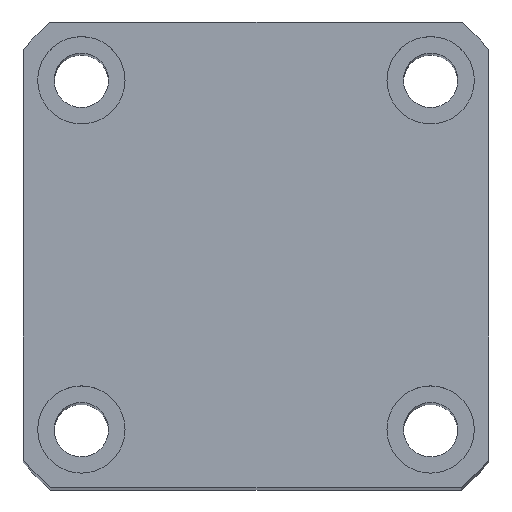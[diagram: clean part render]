
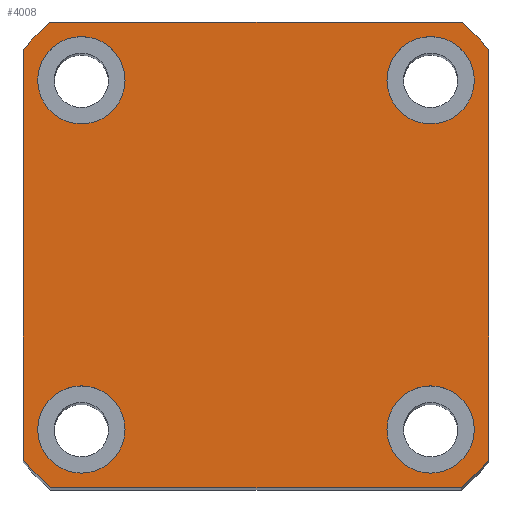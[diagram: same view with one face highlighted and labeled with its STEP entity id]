
A CAD part, top view. The second image highlights one B-rep face of the part: STEP entity #4008.
In plain terms, the highlighted planar face has unit normal (0, 0, 1) as drawn and (1, 0, 0) by its records, which use the part's own axes.
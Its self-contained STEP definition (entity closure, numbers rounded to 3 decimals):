
#106 = CARTESIAN_POINT ( 'NONE',  ( 135., -18., 13.5 ) ) ;
#119 = DIRECTION ( 'NONE',  ( 1., 0., 0. ) ) ;
#218 = DIRECTION ( 'NONE',  ( 0., 0., -1. ) ) ;
#349 = VERTEX_POINT ( 'NONE', #4799 ) ;
#373 = DIRECTION ( 'NONE',  ( 0., 0., -1. ) ) ;
#385 = FACE_OUTER_BOUND ( 'NONE', #4610, .T. ) ;
#456 = EDGE_CURVE ( 'NONE', #5456, #5021, #3581, .T. ) ;
#568 = CARTESIAN_POINT ( 'NONE',  ( 135., 21.166, 24. ) ) ;
#635 = FACE_BOUND ( 'NONE', #8211, .T. ) ;
#684 = VERTEX_POINT ( 'NONE', #4322 ) ;
#689 = DIRECTION ( 'NONE',  ( 0., 0., -1. ) ) ;
#705 = ORIENTED_EDGE ( 'NONE', *, *, #456, .F. ) ;
#852 = ORIENTED_EDGE ( 'NONE', *, *, #4345, .T. ) ;
#887 = CARTESIAN_POINT ( 'NONE',  ( 135., 0., 0. ) ) ;
#899 = CARTESIAN_POINT ( 'NONE',  ( 135., -24., 21.166 ) ) ;
#920 = EDGE_LOOP ( 'NONE', ( #2832, #3960 ) ) ;
#987 = CARTESIAN_POINT ( 'NONE',  ( 135., 24., 24. ) ) ;
#1135 = ORIENTED_EDGE ( 'NONE', *, *, #10240, .T. ) ;
#1282 = DIRECTION ( 'NONE',  ( 1., 0., 0. ) ) ;
#1289 = AXIS2_PLACEMENT_3D ( 'NONE', #887, #6724, #1725 ) ;
#1295 = AXIS2_PLACEMENT_3D ( 'NONE', #8326, #3315, #9135 ) ;
#1313 = CARTESIAN_POINT ( 'NONE',  ( 135., 18., -13.5 ) ) ;
#1355 = DIRECTION ( 'NONE',  ( 1., 0., 0. ) ) ;
#1544 = CARTESIAN_POINT ( 'NONE',  ( 135., -18., -18. ) ) ;
#1614 = CIRCLE ( 'NONE', #7453, 4.5 ) ;
#1634 = CARTESIAN_POINT ( 'NONE',  ( 135., -21.166, -24. ) ) ;
#1678 = EDGE_CURVE ( 'NONE', #3314, #3389, #6173, .T. ) ;
#1695 = CARTESIAN_POINT ( 'NONE',  ( 135., 0., 0. ) ) ;
#1725 = DIRECTION ( 'NONE',  ( 0., 0., -1. ) ) ;
#1746 = EDGE_CURVE ( 'NONE', #10624, #7186, #5623, .T. ) ;
#1821 = DIRECTION ( 'NONE',  ( 0., -1., 0. ) ) ;
#1950 = DIRECTION ( 'NONE',  ( 0., 0., 1. ) ) ;
#2161 = EDGE_CURVE ( 'NONE', #7186, #10624, #7739, .T. ) ;
#2256 = DIRECTION ( 'NONE',  ( 0., 0., -1. ) ) ;
#2375 = VERTEX_POINT ( 'NONE', #9405 ) ;
#2388 = DIRECTION ( 'NONE',  ( 0., 0., -1. ) ) ;
#2398 = VERTEX_POINT ( 'NONE', #8665 ) ;
#2537 = DIRECTION ( 'NONE',  ( 0., 0., -1. ) ) ;
#2551 = ORIENTED_EDGE ( 'NONE', *, *, #6349, .T. ) ;
#2620 = FACE_BOUND ( 'NONE', #5037, .T. ) ;
#2671 = CARTESIAN_POINT ( 'NONE',  ( 135., 18., 13.5 ) ) ;
#2798 = EDGE_CURVE ( 'NONE', #5021, #5456, #7316, .T. ) ;
#2832 = ORIENTED_EDGE ( 'NONE', *, *, #7384, .F. ) ;
#2894 = VERTEX_POINT ( 'NONE', #5291 ) ;
#3037 = CARTESIAN_POINT ( 'NONE',  ( 135., -18., -18. ) ) ;
#3161 = DIRECTION ( 'NONE',  ( 1., 0., 0. ) ) ;
#3191 = EDGE_CURVE ( 'NONE', #3793, #6776, #10653, .T. ) ;
#3231 = AXIS2_PLACEMENT_3D ( 'NONE', #10335, #5376, #373 ) ;
#3314 = VERTEX_POINT ( 'NONE', #8380 ) ;
#3315 = DIRECTION ( 'NONE',  ( 1., 0., 0. ) ) ;
#3389 = VERTEX_POINT ( 'NONE', #899 ) ;
#3573 = VECTOR ( 'NONE', #2256, 1000. ) ;
#3578 = AXIS2_PLACEMENT_3D ( 'NONE', #1544, #7386, #2388 ) ;
#3581 = CIRCLE ( 'NONE', #5561, 4.5 ) ;
#3793 = VERTEX_POINT ( 'NONE', #10262 ) ;
#3801 = AXIS2_PLACEMENT_3D ( 'NONE', #3037, #8863, #3869 ) ;
#3854 = ORIENTED_EDGE ( 'NONE', *, *, #1746, .F. ) ;
#3869 = DIRECTION ( 'NONE',  ( 0., 0., -1. ) ) ;
#3960 = ORIENTED_EDGE ( 'NONE', *, *, #4686, .F. ) ;
#3977 = DIRECTION ( 'NONE',  ( 0., 1., 0. ) ) ;
#4008 = ADVANCED_FACE ( 'NONE', ( #5098, #2620, #635, #7306, #385 ), #6476, .T. ) ;
#4205 = DIRECTION ( 'NONE',  ( 0., 0., -1. ) ) ;
#4322 = CARTESIAN_POINT ( 'NONE',  ( 135., -24., -21.166 ) ) ;
#4345 = EDGE_CURVE ( 'NONE', #2375, #349, #8745, .T. ) ;
#4455 = DIRECTION ( 'NONE',  ( 1., 0., 0. ) ) ;
#4467 = EDGE_CURVE ( 'NONE', #684, #4699, #6934, .T. ) ;
#4566 = ORIENTED_EDGE ( 'NONE', *, *, #1678, .T. ) ;
#4610 = EDGE_LOOP ( 'NONE', ( #8926, #2551, #852, #1135, #8515, #4566, #9264, #5885 ) ) ;
#4667 = EDGE_LOOP ( 'NONE', ( #5947, #10587 ) ) ;
#4686 = EDGE_CURVE ( 'NONE', #2894, #7237, #6136, .T. ) ;
#4699 = VERTEX_POINT ( 'NONE', #1634 ) ;
#4799 = CARTESIAN_POINT ( 'NONE',  ( 135., 24., 21.166 ) ) ;
#5009 = CARTESIAN_POINT ( 'NONE',  ( 135., 18., -18. ) ) ;
#5021 = VERTEX_POINT ( 'NONE', #1313 ) ;
#5037 = EDGE_LOOP ( 'NONE', ( #7799, #3854 ) ) ;
#5098 = FACE_BOUND ( 'NONE', #4667, .T. ) ;
#5125 = CARTESIAN_POINT ( 'NONE',  ( 135., -18., 18. ) ) ;
#5217 = DIRECTION ( 'NONE',  ( 1., 0., 0. ) ) ;
#5233 = VECTOR ( 'NONE', #1950, 1000. ) ;
#5291 = CARTESIAN_POINT ( 'NONE',  ( 135., 18., 22.5 ) ) ;
#5376 = DIRECTION ( 'NONE',  ( 1., 0., 0. ) ) ;
#5456 = VERTEX_POINT ( 'NONE', #9411 ) ;
#5561 = AXIS2_PLACEMENT_3D ( 'NONE', #5009, #4455, #4205 ) ;
#5623 = CIRCLE ( 'NONE', #9946, 4.5 ) ;
#5632 = LINE ( 'NONE', #987, #9769 ) ;
#5680 = DIRECTION ( 'NONE',  ( 1., 0., 0. ) ) ;
#5885 = ORIENTED_EDGE ( 'NONE', *, *, #4467, .T. ) ;
#5947 = ORIENTED_EDGE ( 'NONE', *, *, #6419, .F. ) ;
#5956 = DIRECTION ( 'NONE',  ( 0., 0., -1. ) ) ;
#6017 = AXIS2_PLACEMENT_3D ( 'NONE', #10166, #5217, #218 ) ;
#6077 = CIRCLE ( 'NONE', #3801, 4.5 ) ;
#6136 = CIRCLE ( 'NONE', #1295, 4.5 ) ;
#6173 = CIRCLE ( 'NONE', #9067, 32. ) ;
#6178 = CIRCLE ( 'NONE', #1289, 32. ) ;
#6260 = CARTESIAN_POINT ( 'NONE',  ( 135., 0., 0. ) ) ;
#6306 = LINE ( 'NONE', #8919, #3573 ) ;
#6334 = CARTESIAN_POINT ( 'NONE',  ( 135., 18., 18. ) ) ;
#6349 = EDGE_CURVE ( 'NONE', #2398, #2375, #10710, .T. ) ;
#6419 = EDGE_CURVE ( 'NONE', #6776, #3793, #6077, .T. ) ;
#6432 = CARTESIAN_POINT ( 'NONE',  ( 135., -18., 22.5 ) ) ;
#6476 = PLANE ( 'NONE',  #7866 ) ;
#6698 = VECTOR ( 'NONE', #3977, 1000. ) ;
#6724 = DIRECTION ( 'NONE',  ( 1., 0., 0. ) ) ;
#6776 = VERTEX_POINT ( 'NONE', #10227 ) ;
#6934 = CIRCLE ( 'NONE', #9818, 32. ) ;
#6945 = CARTESIAN_POINT ( 'NONE',  ( 135., 24., 24. ) ) ;
#6959 = VERTEX_POINT ( 'NONE', #568 ) ;
#7091 = CARTESIAN_POINT ( 'NONE',  ( 135., 0., 0. ) ) ;
#7118 = DIRECTION ( 'NONE',  ( 0., 0., -1. ) ) ;
#7184 = DIRECTION ( 'NONE',  ( 0., 0., -1. ) ) ;
#7186 = VERTEX_POINT ( 'NONE', #106 ) ;
#7237 = VERTEX_POINT ( 'NONE', #2671 ) ;
#7306 = FACE_BOUND ( 'NONE', #920, .T. ) ;
#7316 = CIRCLE ( 'NONE', #6017, 4.5 ) ;
#7384 = EDGE_CURVE ( 'NONE', #7237, #2894, #1614, .T. ) ;
#7386 = DIRECTION ( 'NONE',  ( 1., 0., 0. ) ) ;
#7453 = AXIS2_PLACEMENT_3D ( 'NONE', #6334, #1355, #7184 ) ;
#7541 = DIRECTION ( 'NONE',  ( 1., 0., 0. ) ) ;
#7657 = ORIENTED_EDGE ( 'NONE', *, *, #2798, .F. ) ;
#7739 = CIRCLE ( 'NONE', #8677, 4.5 ) ;
#7799 = ORIENTED_EDGE ( 'NONE', *, *, #2161, .F. ) ;
#7866 = AXIS2_PLACEMENT_3D ( 'NONE', #7091, #3161, #8994 ) ;
#7895 = EDGE_CURVE ( 'NONE', #6959, #3314, #5632, .T. ) ;
#8211 = EDGE_LOOP ( 'NONE', ( #705, #7657 ) ) ;
#8326 = CARTESIAN_POINT ( 'NONE',  ( 135., 18., 18. ) ) ;
#8380 = CARTESIAN_POINT ( 'NONE',  ( 135., -21.166, 24. ) ) ;
#8515 = ORIENTED_EDGE ( 'NONE', *, *, #7895, .T. ) ;
#8662 = LINE ( 'NONE', #9764, #6698 ) ;
#8665 = CARTESIAN_POINT ( 'NONE',  ( 135., 21.166, -24. ) ) ;
#8677 = AXIS2_PLACEMENT_3D ( 'NONE', #10642, #5680, #689 ) ;
#8745 = LINE ( 'NONE', #6945, #5233 ) ;
#8863 = DIRECTION ( 'NONE',  ( 1., 0., 0. ) ) ;
#8919 = CARTESIAN_POINT ( 'NONE',  ( 135., -24., 24. ) ) ;
#8926 = ORIENTED_EDGE ( 'NONE', *, *, #8966, .T. ) ;
#8966 = EDGE_CURVE ( 'NONE', #4699, #2398, #8662, .T. ) ;
#8994 = DIRECTION ( 'NONE',  ( 0., 0., -1. ) ) ;
#9067 = AXIS2_PLACEMENT_3D ( 'NONE', #1695, #7541, #2537 ) ;
#9135 = DIRECTION ( 'NONE',  ( 0., 0., -1. ) ) ;
#9264 = ORIENTED_EDGE ( 'NONE', *, *, #9846, .T. ) ;
#9405 = CARTESIAN_POINT ( 'NONE',  ( 135., 24., -21.166 ) ) ;
#9411 = CARTESIAN_POINT ( 'NONE',  ( 135., 18., -22.5 ) ) ;
#9764 = CARTESIAN_POINT ( 'NONE',  ( 135., 24., -24. ) ) ;
#9769 = VECTOR ( 'NONE', #1821, 1000. ) ;
#9818 = AXIS2_PLACEMENT_3D ( 'NONE', #6260, #1282, #7118 ) ;
#9846 = EDGE_CURVE ( 'NONE', #3389, #684, #6306, .T. ) ;
#9946 = AXIS2_PLACEMENT_3D ( 'NONE', #5125, #119, #5956 ) ;
#10166 = CARTESIAN_POINT ( 'NONE',  ( 135., 18., -18. ) ) ;
#10227 = CARTESIAN_POINT ( 'NONE',  ( 135., -18., -22.5 ) ) ;
#10240 = EDGE_CURVE ( 'NONE', #349, #6959, #6178, .T. ) ;
#10262 = CARTESIAN_POINT ( 'NONE',  ( 135., -18., -13.5 ) ) ;
#10335 = CARTESIAN_POINT ( 'NONE',  ( 135., 0., 0. ) ) ;
#10587 = ORIENTED_EDGE ( 'NONE', *, *, #3191, .F. ) ;
#10624 = VERTEX_POINT ( 'NONE', #6432 ) ;
#10642 = CARTESIAN_POINT ( 'NONE',  ( 135., -18., 18. ) ) ;
#10653 = CIRCLE ( 'NONE', #3578, 4.5 ) ;
#10710 = CIRCLE ( 'NONE', #3231, 32. ) ;
